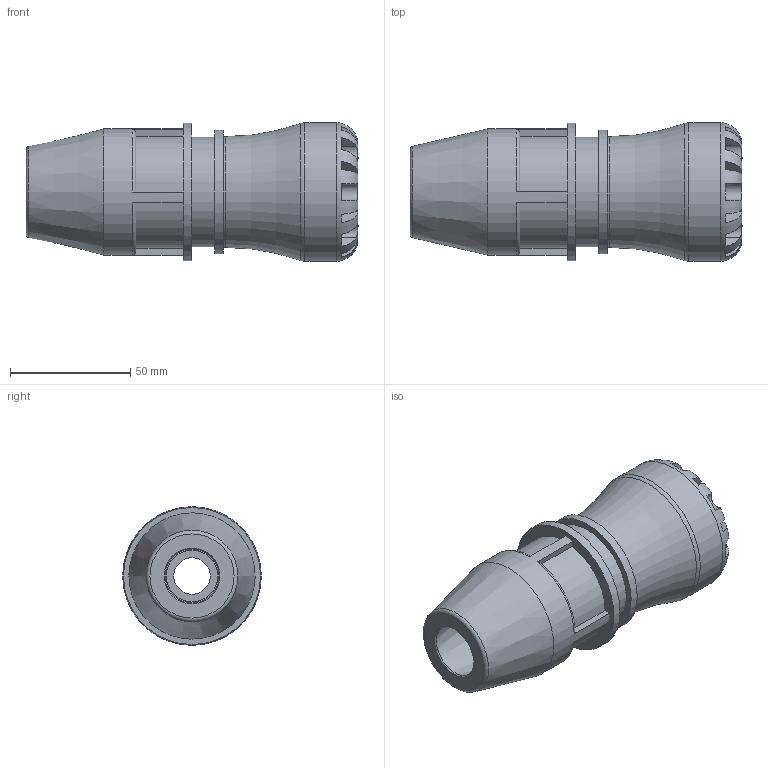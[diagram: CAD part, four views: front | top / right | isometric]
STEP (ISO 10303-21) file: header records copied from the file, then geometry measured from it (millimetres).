
FILE_DESCRIPTION(/* description */ ('PLASSON UNIVERSAL COUPLING 19-22X32 SERIES 1'),/* implementation_level */ '2;1');
FILE_NAME(/* name */ 'C:\Dropbox\KIMPROJECTS-Inventor 2019\99-16-3568-Processing\S1\10017\stp\100170032022.stp',/* time_stamp */ '2023-08-31T10:33:40+03:00',/* author */ ('KIM'),/* organization */ (''),/* preprocessor_version */ 'ST-DEVELOPER v17.2',/* originating_system */ 'Autodesk Inventor 2019',/* authorisation */ '');
FILE_SCHEMA (('AUTOMOTIVE_DESIGN { 1 0 10303 214 3 1 1 }'));
Length unit declared in the file: millimetre
Products named in the file (1): 100170032022
Bounding box: 138 x 57.6 x 57.6 mm (x, y, z)
Volume: 181362.6 mm3; surface area: 41742.1 mm2
Topology: 1 solids, 1 shells, 110 faces, 296 edges, 195 vertices
Faces by surface type: plane 69, cylinder 29, torus 8, cone 4
Full cylindrical faces by diameter (mm): 15.16 x1, 21.56 x1, 32 x1, 45.6 x1, 46.08 x1, 51.3 x1, 52.44 x1, 57 x1, 57.6 x1
Entity records: 4094 total; most frequent: CARTESIAN_POINT 1244, DIRECTION 609, ORIENTED_EDGE 592, EDGE_CURVE 296, AXIS2_PLACEMENT_3D 250, VERTEX_POINT 195, CIRCLE 139, EDGE_LOOP 119
